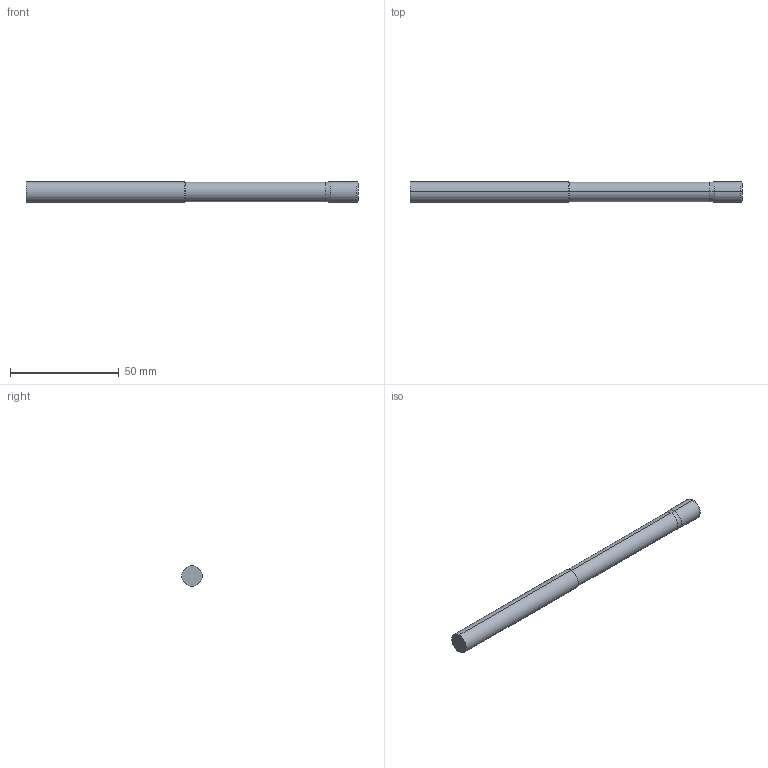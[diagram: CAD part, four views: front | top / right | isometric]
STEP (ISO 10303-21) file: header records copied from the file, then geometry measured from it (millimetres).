
FILE_DESCRIPTION (( 'STEP AP214' ), '1' );
FILE_NAME ('SSIRNL50375-030.STEP', '2025-05-28T13:16:01', ( '' ), ( '' ), 'SwSTEP 2.0', 'SolidWorks 2023', '' );
FILE_SCHEMA (( 'AUTOMOTIVE_DESIGN' ));
Length unit declared in the file: inch
Products named in the file (3): SSI5 Imperial SHANK ONLY_SSIRNL50375-030; SSI5 Imperial LOC ONLY_SSIRNL50375-030; SSIRNL50375-030
Assembly tree (2 placements, depth 2):
  SSIRNL50375-030
    SSI5 Imperial LOC ONLY_SSIRNL50375-030
    SSI5 Imperial SHANK ONLY_SSIRNL50375-030
Bounding box: 152.4 x 9.53 x 9.53 mm (x, y, z)
Volume: 10368.5 mm3; surface area: 4732.7 mm2
Topology: 2 solids, 2 shells, 16 faces, 28 edges, 16 vertices
Faces by surface type: cylinder 6, plane 4, cone 4, torus 2
Entity records: 562 total; most frequent: DIRECTION 88, CARTESIAN_POINT 65, ORIENTED_EDGE 56, AXIS2_PLACEMENT_3D 39, EDGE_CURVE 28, CIRCLE 18, FACE_OUTER_BOUND 16, EDGE_LOOP 16
